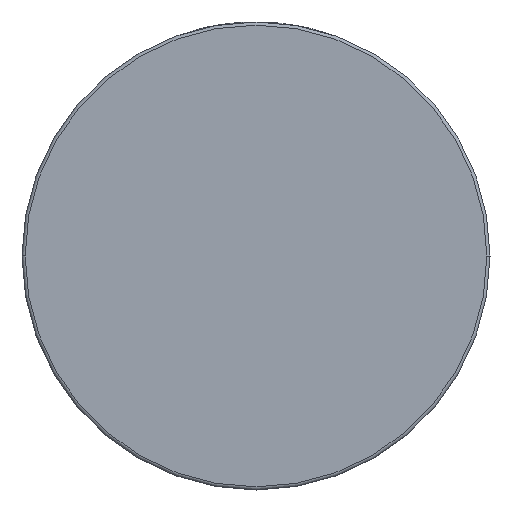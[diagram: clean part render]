
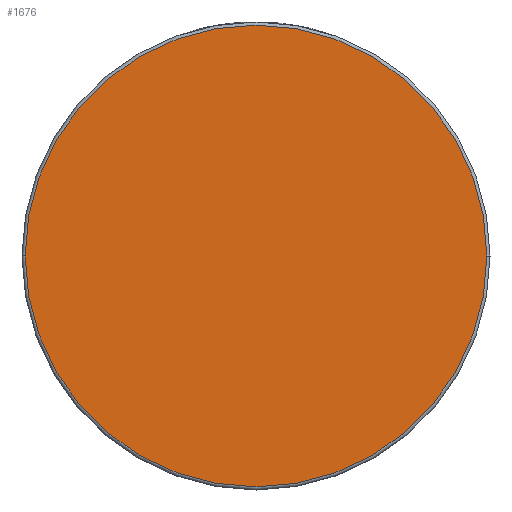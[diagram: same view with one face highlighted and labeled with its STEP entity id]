
A CAD part, front view. The second image highlights one B-rep face of the part: STEP entity #1676.
In plain terms, the highlighted planar face has unit normal (0, -1, 0).
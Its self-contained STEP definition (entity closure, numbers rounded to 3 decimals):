
#16 = CARTESIAN_POINT ( 'NONE',  ( -73., -31.5, 0. ) ) ;
#292 = PLANE ( 'NONE',  #2590 ) ;
#768 = DIRECTION ( 'NONE',  ( 1., 0., 0. ) ) ;
#778 = CIRCLE ( 'NONE', #1121, 73. ) ;
#883 = EDGE_LOOP ( 'NONE', ( #3234, #4085 ) ) ;
#940 = CARTESIAN_POINT ( 'NONE',  ( 74., -31.5, 0. ) ) ;
#962 = DIRECTION ( 'NONE',  ( 0., -1., 0. ) ) ;
#989 = AXIS2_PLACEMENT_3D ( 'NONE', #2506, #3798, #768 ) ;
#1121 = AXIS2_PLACEMENT_3D ( 'NONE', #2452, #2093, #3766 ) ;
#1626 = DIRECTION ( 'NONE',  ( 1., 0., 0. ) ) ;
#1676 = ADVANCED_FACE ( 'NONE', ( #2686 ), #292, .T. ) ;
#2093 = DIRECTION ( 'NONE',  ( 0., -1., 0. ) ) ;
#2447 = CARTESIAN_POINT ( 'NONE',  ( 73., -31.5, 0. ) ) ;
#2452 = CARTESIAN_POINT ( 'NONE',  ( 0., -31.5, 0. ) ) ;
#2506 = CARTESIAN_POINT ( 'NONE',  ( 0., -31.5, 0. ) ) ;
#2590 = AXIS2_PLACEMENT_3D ( 'NONE', #940, #962, #1626 ) ;
#2686 = FACE_OUTER_BOUND ( 'NONE', #883, .T. ) ;
#2702 = VERTEX_POINT ( 'NONE', #16 ) ;
#2751 = CIRCLE ( 'NONE', #989, 73. ) ;
#2838 = EDGE_CURVE ( 'NONE', #3770, #2702, #2751, .T. ) ;
#3234 = ORIENTED_EDGE ( 'NONE', *, *, #2838, .T. ) ;
#3361 = EDGE_CURVE ( 'NONE', #2702, #3770, #778, .T. ) ;
#3766 = DIRECTION ( 'NONE',  ( 1., 0., 0. ) ) ;
#3770 = VERTEX_POINT ( 'NONE', #2447 ) ;
#3798 = DIRECTION ( 'NONE',  ( 0., -1., 0. ) ) ;
#4085 = ORIENTED_EDGE ( 'NONE', *, *, #3361, .T. ) ;
